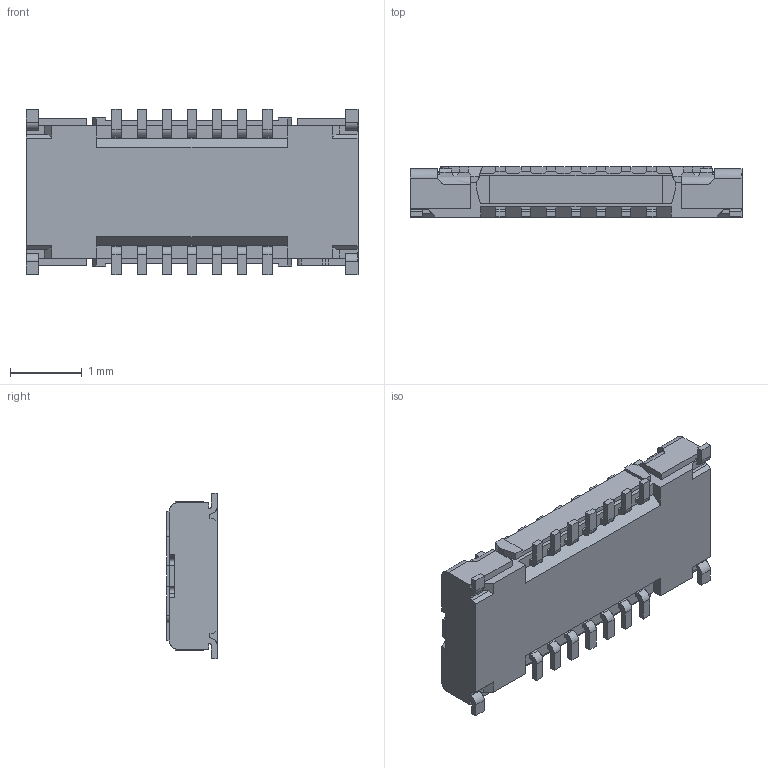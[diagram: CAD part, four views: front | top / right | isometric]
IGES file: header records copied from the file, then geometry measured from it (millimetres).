
Start section: SolidWorks IGES file using analytic representation for surfaces
Global section: file name: _exported\20708-014E-01+20709-014E-01C MATING IGES R1R2 ALL.IGS; native system: SolidWorks 2023; preprocessor: SolidWorks 2023; author: 83197; date: 250228.180440; units: millimetre
Bounding box: 4.62 x 0.7 x 2.3 mm (x, y, z)
Surface area: 36.3 mm2 (no closed solid volume)
Topology: 0 solids, 0 shells, 576 faces, 3556 edges, 3556 vertices
Faces by surface type: bspline 502, revolution 74
